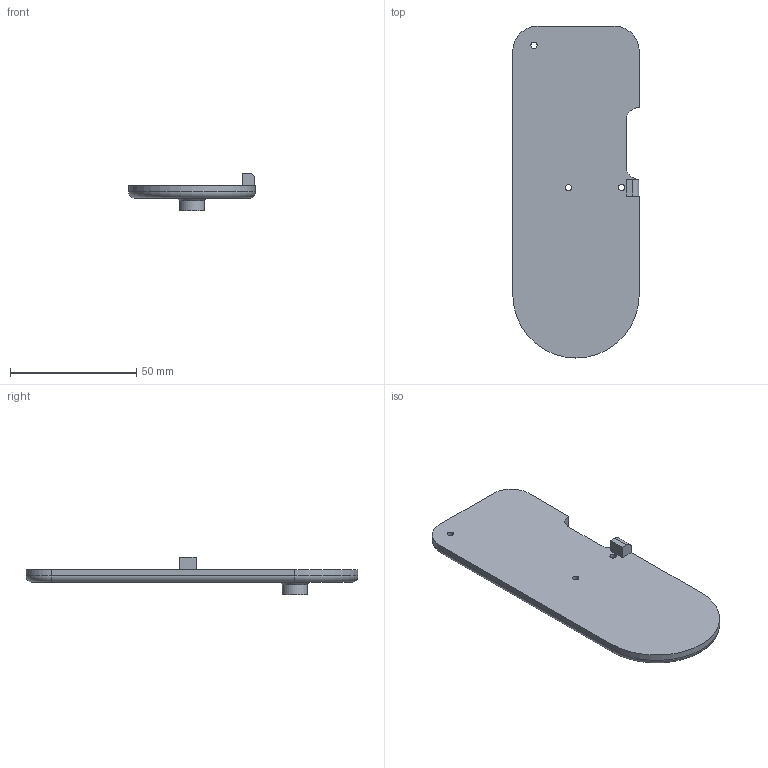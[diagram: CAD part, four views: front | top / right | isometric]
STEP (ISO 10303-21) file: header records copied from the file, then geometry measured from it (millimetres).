
FILE_DESCRIPTION(/* description */ (''),/* implementation_level */ '2;1');
FILE_NAME(/* name */ 'left_upper_top.step',/* time_stamp */ '2026-06-13T15:31:54-06:00',/* author */ (''),/* organization */ (''),/* preprocessor_version */ 'ST-DEVELOPER v20.1',/* originating_system */ 'Autodesk Translation Framework v15.8.0.0',/* authorisation */ '');
FILE_SCHEMA (('AUTOMOTIVE_DESIGN { 1 0 10303 214 3 1 1 }'));
Length unit declared in the file: millimetre
Products named in the file (1): left_upper_top
Bounding box: 50 x 131.3 x 15 mm (x, y, z)
Volume: 30642 mm3; surface area: 13917.6 mm2
Topology: 1 solids, 1 shells, 37 faces, 90 edges, 56 vertices
Faces by surface type: cylinder 15, plane 15, cone 4, torus 3
Full cylindrical faces by diameter (mm): 2.5 x3, 9.9 x1
Entity records: 1148 total; most frequent: DIRECTION 200, CARTESIAN_POINT 200, ORIENTED_EDGE 180, EDGE_CURVE 90, AXIS2_PLACEMENT_3D 74, VERTEX_POINT 56, LINE 52, VECTOR 52
